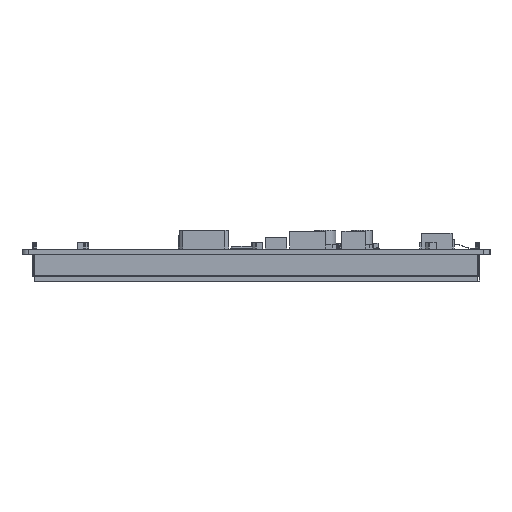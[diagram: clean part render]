
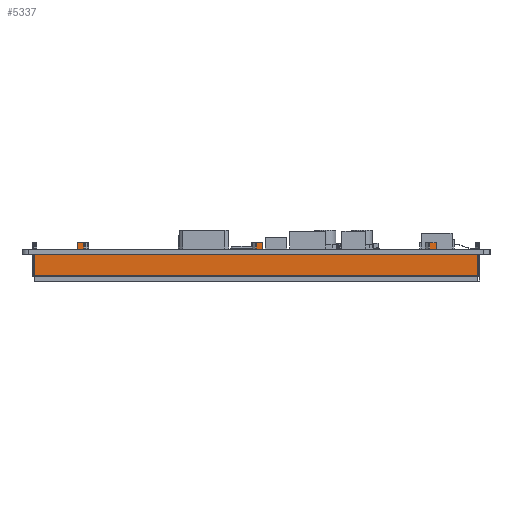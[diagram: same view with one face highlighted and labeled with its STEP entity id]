
A CAD part, left-side view. The second image highlights one B-rep face of the part: STEP entity #5337.
In plain terms, the highlighted planar face has unit normal (-1, 0, 0).
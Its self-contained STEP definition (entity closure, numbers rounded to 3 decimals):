
#5337=ADVANCED_FACE('',(#10040),#7532,.F.);
#7532=PLANE('',#58745);
#10040=FACE_OUTER_BOUND('',#12729,.T.);
#12729=EDGE_LOOP('',(#26285,#26286,#26287,#26288,#26289,#26290,#26291,#26292,
#26293,#26294,#26295,#26296,#26297,#26298,#26299,#26300,#26301,#26302,#26303,
#26304,#26305,#26306));
#26285=ORIENTED_EDGE('',*,*,#39480,.F.);
#26286=ORIENTED_EDGE('',*,*,#39481,.T.);
#26287=ORIENTED_EDGE('',*,*,#39482,.T.);
#26288=ORIENTED_EDGE('',*,*,#39477,.T.);
#26289=ORIENTED_EDGE('',*,*,#39483,.F.);
#26290=ORIENTED_EDGE('',*,*,#39484,.F.);
#26291=ORIENTED_EDGE('',*,*,#39485,.T.);
#26292=ORIENTED_EDGE('',*,*,#39486,.T.);
#26293=ORIENTED_EDGE('',*,*,#39487,.T.);
#26294=ORIENTED_EDGE('',*,*,#39473,.T.);
#26295=ORIENTED_EDGE('',*,*,#39488,.F.);
#26296=ORIENTED_EDGE('',*,*,#39489,.F.);
#26297=ORIENTED_EDGE('',*,*,#39490,.T.);
#26298=ORIENTED_EDGE('',*,*,#39491,.T.);
#26299=ORIENTED_EDGE('',*,*,#39492,.T.);
#26300=ORIENTED_EDGE('',*,*,#39469,.T.);
#26301=ORIENTED_EDGE('',*,*,#39493,.F.);
#26302=ORIENTED_EDGE('',*,*,#39494,.T.);
#26303=ORIENTED_EDGE('',*,*,#39495,.F.);
#26304=ORIENTED_EDGE('',*,*,#39496,.F.);
#26305=ORIENTED_EDGE('',*,*,#39497,.T.);
#26306=ORIENTED_EDGE('',*,*,#39467,.T.);
#32295=VERTEX_POINT('',#86953);
#32297=VERTEX_POINT('',#86957);
#32298=VERTEX_POINT('',#86961);
#32300=VERTEX_POINT('',#86964);
#32302=VERTEX_POINT('',#86970);
#32304=VERTEX_POINT('',#86973);
#32306=VERTEX_POINT('',#86979);
#32308=VERTEX_POINT('',#86982);
#32310=VERTEX_POINT('',#86988);
#32311=VERTEX_POINT('',#86990);
#32312=VERTEX_POINT('',#86993);
#32313=VERTEX_POINT('',#86995);
#32314=VERTEX_POINT('',#86997);
#32315=VERTEX_POINT('',#86999);
#32316=VERTEX_POINT('',#87002);
#32317=VERTEX_POINT('',#87004);
#32318=VERTEX_POINT('',#87006);
#32319=VERTEX_POINT('',#87008);
#32320=VERTEX_POINT('',#87011);
#32321=VERTEX_POINT('',#87013);
#32322=VERTEX_POINT('',#87015);
#32323=VERTEX_POINT('',#87017);
#39467=EDGE_CURVE('',#32295,#32297,#47653,.T.);
#39469=EDGE_CURVE('',#32300,#32298,#47655,.T.);
#39473=EDGE_CURVE('',#32304,#32302,#47659,.T.);
#39477=EDGE_CURVE('',#32308,#32306,#47663,.T.);
#39480=EDGE_CURVE('',#32310,#32297,#47666,.T.);
#39481=EDGE_CURVE('',#32310,#32311,#47667,.T.);
#39482=EDGE_CURVE('',#32311,#32308,#47668,.T.);
#39483=EDGE_CURVE('',#32312,#32306,#47669,.T.);
#39484=EDGE_CURVE('',#32313,#32312,#47670,.T.);
#39485=EDGE_CURVE('',#32313,#32314,#47671,.T.);
#39486=EDGE_CURVE('',#32314,#32315,#47672,.T.);
#39487=EDGE_CURVE('',#32315,#32304,#47673,.T.);
#39488=EDGE_CURVE('',#32316,#32302,#47674,.T.);
#39489=EDGE_CURVE('',#32317,#32316,#47675,.T.);
#39490=EDGE_CURVE('',#32317,#32318,#47676,.T.);
#39491=EDGE_CURVE('',#32318,#32319,#47677,.T.);
#39492=EDGE_CURVE('',#32319,#32300,#47678,.T.);
#39493=EDGE_CURVE('',#32320,#32298,#47679,.T.);
#39494=EDGE_CURVE('',#32320,#32321,#47680,.T.);
#39495=EDGE_CURVE('',#32322,#32321,#47681,.T.);
#39496=EDGE_CURVE('',#32323,#32322,#47682,.T.);
#39497=EDGE_CURVE('',#32323,#32295,#47683,.T.);
#47653=LINE('',#86958,#54237);
#47655=LINE('',#86963,#54239);
#47659=LINE('',#86972,#54243);
#47663=LINE('',#86981,#54247);
#47666=LINE('',#86987,#54250);
#47667=LINE('',#86989,#54251);
#47668=LINE('',#86991,#54252);
#47669=LINE('',#86992,#54253);
#47670=LINE('',#86994,#54254);
#47671=LINE('',#86996,#54255);
#47672=LINE('',#86998,#54256);
#47673=LINE('',#87000,#54257);
#47674=LINE('',#87001,#54258);
#47675=LINE('',#87003,#54259);
#47676=LINE('',#87005,#54260);
#47677=LINE('',#87007,#54261);
#47678=LINE('',#87009,#54262);
#47679=LINE('',#87010,#54263);
#47680=LINE('',#87012,#54264);
#47681=LINE('',#87014,#54265);
#47682=LINE('',#87016,#54266);
#47683=LINE('',#87018,#54267);
#54237=VECTOR('',#71276,1.);
#54239=VECTOR('',#71280,1.);
#54243=VECTOR('',#71286,1.);
#54247=VECTOR('',#71292,1.);
#54250=VECTOR('',#71297,1.);
#54251=VECTOR('',#71298,1.);
#54252=VECTOR('',#71299,1.);
#54253=VECTOR('',#71300,1.);
#54254=VECTOR('',#71301,1.);
#54255=VECTOR('',#71302,1.);
#54256=VECTOR('',#71303,1.);
#54257=VECTOR('',#71304,1.);
#54258=VECTOR('',#71305,1.);
#54259=VECTOR('',#71306,1.);
#54260=VECTOR('',#71307,1.);
#54261=VECTOR('',#71308,1.);
#54262=VECTOR('',#71309,1.);
#54263=VECTOR('',#71310,1.);
#54264=VECTOR('',#71311,1.);
#54265=VECTOR('',#71312,1.);
#54266=VECTOR('',#71313,1.);
#54267=VECTOR('',#71314,1.);
#58745=AXIS2_PLACEMENT_3D('',#87019,#71315,#71316);
#71276=DIRECTION('',(0.,1.,0.));
#71280=DIRECTION('',(0.,1.,0.));
#71286=DIRECTION('',(0.,1.,0.));
#71292=DIRECTION('',(0.,1.,0.));
#71297=DIRECTION('',(0.,0.,1.));
#71298=DIRECTION('',(0.,-1.,0.));
#71299=DIRECTION('',(0.,0.,1.));
#71300=DIRECTION('',(0.,0.,-1.));
#71301=DIRECTION('',(0.,-1.,0.));
#71302=DIRECTION('',(0.,0.,-1.));
#71303=DIRECTION('',(0.,-1.,0.));
#71304=DIRECTION('',(0.,0.,-1.));
#71305=DIRECTION('',(0.,0.,-1.));
#71306=DIRECTION('',(0.,-1.,0.));
#71307=DIRECTION('',(0.,0.,-1.));
#71308=DIRECTION('',(0.,-1.,0.));
#71309=DIRECTION('',(0.,0.,-1.));
#71310=DIRECTION('',(0.,0.,-1.));
#71311=DIRECTION('',(0.,-1.,0.));
#71312=DIRECTION('',(0.,0.,-1.));
#71313=DIRECTION('',(0.,-1.,0.));
#71314=DIRECTION('',(0.,0.,-1.));
#71315=DIRECTION('',(1.,0.,0.));
#71316=DIRECTION('',(0.,1.,0.));
#86953=CARTESIAN_POINT('',(-84.85,60.795,-1.6));
#86957=CARTESIAN_POINT('',(-84.85,74.48,-1.6));
#86958=CARTESIAN_POINT('',(-84.85,-66.52,-1.6));
#86961=CARTESIAN_POINT('',(-84.85,58.795,-1.6));
#86963=CARTESIAN_POINT('',(-84.85,-66.52,-1.6));
#86964=CARTESIAN_POINT('',(-84.85,3.795,-1.6));
#86970=CARTESIAN_POINT('',(-84.85,1.795,-1.6));
#86972=CARTESIAN_POINT('',(-84.85,-66.52,-1.6));
#86973=CARTESIAN_POINT('',(-84.85,-51.325,-1.6));
#86979=CARTESIAN_POINT('',(-84.85,-53.325,-1.6));
#86981=CARTESIAN_POINT('',(-84.85,-66.52,-1.6));
#86982=CARTESIAN_POINT('',(-84.85,-66.52,-1.6));
#86987=CARTESIAN_POINT('',(-84.85,74.48,-8.8));
#86988=CARTESIAN_POINT('',(-84.85,74.48,-8.4));
#86989=CARTESIAN_POINT('',(-84.85,-66.52,-8.4));
#86990=CARTESIAN_POINT('',(-84.85,-66.52,-8.4));
#86991=CARTESIAN_POINT('',(-84.85,-66.52,-8.8));
#86992=CARTESIAN_POINT('',(-84.85,-53.325,2.));
#86993=CARTESIAN_POINT('',(-84.85,-53.325,2.));
#86994=CARTESIAN_POINT('',(-84.85,-51.243,2.));
#86995=CARTESIAN_POINT('',(-84.85,-51.243,2.));
#86996=CARTESIAN_POINT('',(-84.85,-51.243,2.));
#86997=CARTESIAN_POINT('',(-84.85,-51.243,0.));
#86998=CARTESIAN_POINT('',(-84.85,-51.243,0.));
#86999=CARTESIAN_POINT('',(-84.85,-51.325,0.));
#87000=CARTESIAN_POINT('',(-84.85,-51.325,0.));
#87001=CARTESIAN_POINT('',(-84.85,1.795,2.));
#87002=CARTESIAN_POINT('',(-84.85,1.795,2.));
#87003=CARTESIAN_POINT('',(-84.85,3.877,2.));
#87004=CARTESIAN_POINT('',(-84.85,3.877,2.));
#87005=CARTESIAN_POINT('',(-84.85,3.877,2.));
#87006=CARTESIAN_POINT('',(-84.85,3.877,0.));
#87007=CARTESIAN_POINT('',(-84.85,3.877,0.));
#87008=CARTESIAN_POINT('',(-84.85,3.795,0.));
#87009=CARTESIAN_POINT('',(-84.85,3.795,0.));
#87010=CARTESIAN_POINT('',(-84.85,58.795,0.));
#87011=CARTESIAN_POINT('',(-84.85,58.795,0.));
#87012=CARTESIAN_POINT('',(-84.85,60.795,0.));
#87013=CARTESIAN_POINT('',(-84.85,58.713,0.));
#87014=CARTESIAN_POINT('',(-84.85,58.713,2.));
#87015=CARTESIAN_POINT('',(-84.85,58.713,2.));
#87016=CARTESIAN_POINT('',(-84.85,60.795,2.));
#87017=CARTESIAN_POINT('',(-84.85,60.795,2.));
#87018=CARTESIAN_POINT('',(-84.85,60.795,2.));
#87019=CARTESIAN_POINT('',(-84.85,-66.52,-8.8));
